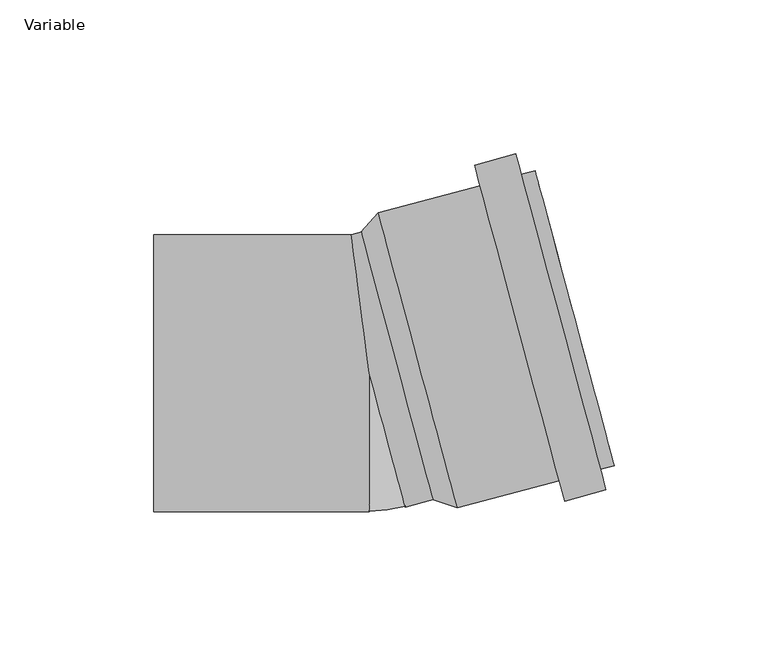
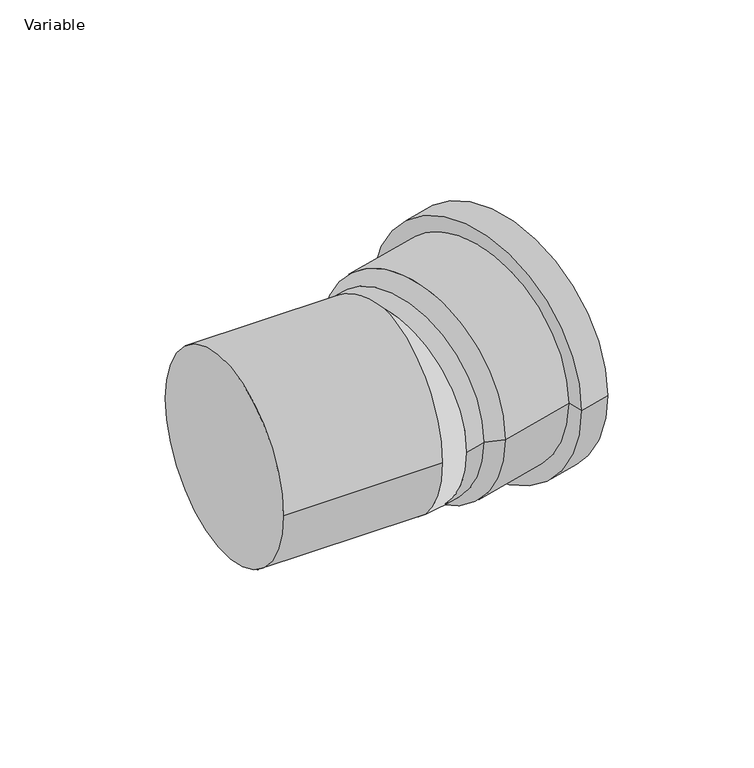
"""IFC4 building model written with IfcOpenShell, lengths in millimetres: pipe fitting geometry, AliaxisFR_Friaphon_ElbowMF_FR : Variable."""

from ifc_helpers import new_model, si_unit, point, frame, origin, place, context, project, spatial, polyline, circle_curve, ellipse_curve, trimmed, source, transform, mapped, element, save
from ifc_brep_helpers import plane_surface, cylinder_surface, revolved_surface, advanced_brep


def variable_9034dd39(model_context):
    return source(origin(), model_context, "Body", "AdvancedBrep", [
        advanced_brep(
        [(79.4863067, -30.0514069, 0.0), (53.8114574, 65.7684351, 0.0), (55.002025, 61.3251763, 0.0), (78.295739, -25.6081481, 0.0), (63.4025303, -41.5044474, 0.0), (34.1559782, 67.645171, 0.0), (47.5823472, 71.2427557, 0.0), (76.8288993, -37.9068627, 0.0), (61.6166789, -34.8395592, 0.0), (35.9418296, 60.9802828, 0.0), (28.5820156, -43.6911705, 0.0), (2.9071663, 52.1286714, 0.0), (-2.5671543, 45.8995612, 0.0), (20.7265598, -41.0337632, 0.0), (75.0430479, -31.2419745, 0.0), (49.3681986, 64.5778675, 0.0)],
        [
            (0, 1, circle_curve(frame((66.648882, 17.8585141, 0.0), z_axis=(0.9659258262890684, 0.25881904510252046, 0.0), x_axis=(-0.25881904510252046, 0.9659258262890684, 0.0)), 49.6)),
            (1, 2),
            (2, 3, circle_curve(frame((66.648882, 17.8585141, 0.0), z_axis=(-0.9659258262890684, -0.25881904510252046, 0.0), x_axis=(-0.25881904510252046, 0.9659258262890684, 0.0)), 45.0)),
            (3, 0),
            (1, 0, circle_curve(frame((66.648882, 17.8585141, 0.0), z_axis=(0.9659258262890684, 0.25881904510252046, 0.0), x_axis=(-0.25881904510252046, 0.9659258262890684, 0.0)), 49.6)),
            (3, 2, circle_curve(frame((66.648882, 17.8585141, 0.0), z_axis=(-0.9659258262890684, -0.25881904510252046, 0.0), x_axis=(-0.25881904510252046, 0.9659258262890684, 0.0)), 45.0)),
            (4, 5, circle_curve(frame((48.7792542, 13.0703618, 0.0), z_axis=(0.9659258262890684, 0.25881904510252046, 0.0), x_axis=(-0.25881904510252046, 0.9659258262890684, 0.0)), 56.5)),
            (5, 6),
            (6, 7, circle_curve(frame((62.2056232, 16.6679465, 0.0), z_axis=(-0.9659258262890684, -0.25881904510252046, 0.0), x_axis=(-0.25881904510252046, 0.9659258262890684, 0.0)), 56.5)),
            (7, 4),
            (5, 4, circle_curve(frame((48.7792542, 13.0703618, 0.0), z_axis=(0.9659258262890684, 0.25881904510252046, 0.0), x_axis=(-0.25881904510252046, 0.9659258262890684, 0.0)), 56.5)),
            (7, 6, circle_curve(frame((62.2056232, 16.6679465, 0.0), z_axis=(-0.9659258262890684, -0.25881904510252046, 0.0), x_axis=(-0.25881904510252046, 0.9659258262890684, 0.0)), 56.5)),
            (8, 9, circle_curve(frame((48.7792542, 13.0703618, 0.0), z_axis=(0.9659258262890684, 0.25881904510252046, 0.0), x_axis=(-0.25881904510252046, 0.9659258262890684, 0.0)), 49.6)),
            (9, 5),
            (4, 8),
            (9, 8, circle_curve(frame((48.7792542, 13.0703618, 0.0), z_axis=(0.9659258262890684, 0.25881904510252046, 0.0), x_axis=(-0.25881904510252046, 0.9659258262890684, 0.0)), 49.6)),
            (10, 11, circle_curve(frame((15.744591, 4.2187504, 0.0), z_axis=(0.9659258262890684, 0.25881904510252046, 0.0), x_axis=(-0.25881904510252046, 0.9659258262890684, 0.0)), 49.6)),
            (11, 9),
            (8, 10),
            (11, 10, circle_curve(frame((15.744591, 4.2187504, 0.0), z_axis=(0.9659258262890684, 0.25881904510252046, 0.0), x_axis=(-0.25881904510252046, 0.9659258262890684, 0.0)), 49.6)),
            (2, 12),
            (12, 13, circle_curve(frame((9.0797028, 2.432899, 0.0), z_axis=(-0.9659258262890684, -0.25881904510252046, 0.0), x_axis=(-0.25881904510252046, 0.9659258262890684, 0.0)), 45.0)),
            (13, 3),
            (13, 12, circle_curve(frame((9.0797028, 2.432899, 0.0), z_axis=(-0.9659258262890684, -0.25881904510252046, 0.0), x_axis=(-0.25881904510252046, 0.9659258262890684, 0.0)), 45.0)),
            (12, 11),
            (10, 13),
            (14, 15, circle_curve(frame((62.2056232, 16.6679465, 0.0), z_axis=(0.9659258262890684, 0.25881904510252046, 0.0), x_axis=(-0.25881904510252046, 0.9659258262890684, 0.0)), 49.6)),
            (15, 1),
            (0, 14),
            (15, 14, circle_curve(frame((62.2056232, 16.6679465, 0.0), z_axis=(0.9659258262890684, 0.25881904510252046, 0.0), x_axis=(-0.25881904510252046, 0.9659258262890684, 0.0)), 49.6)),
            (6, 15),
            (14, 7),
        ],
        [
            plane_surface(frame((66.648882, 17.8585141, 0.0), z_axis=(0.9659258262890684, 0.25881904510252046, 0.0), x_axis=(-0.25881904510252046, 0.9659258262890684, 0.0))),
            cylinder_surface(frame((9.0797028, 2.432899, 0.0), z_axis=(-0.9659258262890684, -0.25881904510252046, 0.0), x_axis=(-0.25881904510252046, 0.9659258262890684, 0.0)), 56.5),
            plane_surface(frame((48.7792542, 13.0703618, 0.0), z_axis=(-0.9659258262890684, -0.25881904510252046, 0.0), x_axis=(-0.25881904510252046, 0.9659258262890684, 0.0))),
            cylinder_surface(frame((9.0797028, 2.432899, 0.0), z_axis=(-0.9659258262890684, -0.25881904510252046, 0.0), x_axis=(-0.25881904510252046, 0.9659258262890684, 0.0)), 49.6),
            revolved_surface(polyline([(-2.5671542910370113, 45.899561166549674, 0.0), (55.00202500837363, 61.325176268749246, 0.0)]), (9.0797028, 2.432899, 0.0), (-0.9659258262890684, -0.25881904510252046, 0.0)),
            revolved_surface(polyline([(2.9071663, 52.1286714, 0.0), (-2.5671543, 45.8995612, 0.0)]), (9.0797028, 2.432899, 0.0), (-0.9659258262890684, -0.25881904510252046, 0.0)),
            plane_surface(frame((62.2056232, 16.6679465, 0.0), z_axis=(0.9659258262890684, 0.25881904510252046, 0.0), x_axis=(-0.25881904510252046, 0.9659258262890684, 0.0))),
        ],
        [
            (0, [[1, 2, 3, 4]]),
            (0, [[5, -4, 6, -2]]),
            (1, [[7, 8, 9, 10]]),
            (1, [[11, -10, 12, -8]]),
            (2, [[13, 14, -7, 15]]),
            (2, [[16, -15, -11, -14]]),
            (3, [[17, 18, -13, 19]]),
            (3, [[20, -19, -16, -18]]),
            (4, [[-3, 21, 22, 23]]),
            (4, [[-6, -23, 24, -21]]),
            (5, [[-22, 25, -17, 26]]),
            (5, [[-24, -26, -20, -25]]),
            (3, [[27, 28, -1, 29]]),
            (3, [[30, -29, -5, -28]]),
            (6, [[-9, 31, -27, 32]]),
            (6, [[-12, -32, -30, -31]]),
        ],
    ),
        advanced_brep(
        [(1.8761045, 47.0901288, 0.0), (13.5229616, 3.6234666, 45.0), (25.1698186, -39.8431956, 0.0), (13.5229616, 3.6234666, -45.0), (11.646857, -43.4666622, 0.0), (-5.9243624, 45.0, 0.0), (0.0, 0.0, 45.0), (0.0, 0.0, -45.0), (-70.0, -45.0, 0.0), (-70.0, 45.0, 0.0), (0.0, -45.0, 0.0)],
        [
            (0, 1, circle_curve(frame((13.5229616, 3.6234666, 0.0), z_axis=(0.9659258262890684, 0.2588190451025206, 0.0), x_axis=(-0.2588190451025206, 0.9659258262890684, 0.0)), 45.0)),
            (1, 2, circle_curve(frame((13.5229616, 3.6234666, 0.0), z_axis=(0.9659258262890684, 0.2588190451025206, 0.0), x_axis=(-0.2588190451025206, 0.9659258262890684, 0.0)), 45.0)),
            (2, 3, circle_curve(frame((13.5229616, 3.6234666, 0.0), z_axis=(0.9659258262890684, 0.2588190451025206, 0.0), x_axis=(-0.2588190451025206, 0.9659258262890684, 0.0)), 45.0)),
            (3, 0, circle_curve(frame((13.5229616, 3.6234666, 0.0), z_axis=(0.9659258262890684, 0.2588190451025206, 0.0), x_axis=(-0.2588190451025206, 0.9659258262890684, 0.0)), 45.0)),
            (4, 2),
            (0, 5),
            (5, 6, ellipse_curve(frame((0.0, 0.0, 0.0), z_axis=(0.9914448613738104, 0.1305261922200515, 0.0), x_axis=(0.13052619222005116, -0.9914448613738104, 0.0)), 45.3883032, 45.0)),
            (6, 4, circle_curve(frame((0.0, 0.0, 0.0), z_axis=(0.9659258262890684, 0.2588190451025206, 0.0), x_axis=(-0.2588190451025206, 0.9659258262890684, 0.0)), 45.0)),
            (4, 7, circle_curve(frame((0.0, 0.0, 0.0), z_axis=(0.9659258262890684, 0.2588190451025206, 0.0), x_axis=(-0.2588190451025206, 0.9659258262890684, 0.0)), 45.0)),
            (7, 5, ellipse_curve(frame((0.0, 0.0, 0.0), z_axis=(0.9914448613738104, 0.1305261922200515, 0.0), x_axis=(0.13052619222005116, -0.9914448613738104, 0.0)), 45.3883032, 45.0)),
            (8, 9, circle_curve(frame((-70.0, 0.0, 0.0), z_axis=(-1.0, 0.0, 0.0), x_axis=(0.0, 1.0, 0.0)), 45.0)),
            (9, 8, circle_curve(frame((-70.0, 0.0, 0.0), z_axis=(-1.0, 0.0, 0.0), x_axis=(0.0, 1.0, 0.0)), 45.0)),
            (8, 10),
            (10, 6, circle_curve(frame((0.0, 0.0, 0.0), z_axis=(-1.0, 0.0, 0.0), x_axis=(0.0, 1.0, 0.0)), 45.0)),
            (5, 9),
            (7, 10, circle_curve(frame((0.0, 0.0, 0.0), z_axis=(-1.0, 0.0, 0.0), x_axis=(0.0, 1.0, 0.0)), 45.0)),
        ],
        [
            plane_surface(frame((13.5229616, 3.6234666, 0.0), z_axis=(0.9659258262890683, 0.2588190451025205, 0.0), x_axis=(0.0, 0.0, 1.0))),
            cylinder_surface(frame((0.0, 0.0, 0.0), z_axis=(-0.9659258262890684, -0.2588190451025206, 0.0), x_axis=(-0.2588190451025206, 0.9659258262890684, 0.0)), 45.0),
            plane_surface(frame((-70.0, 0.0, 0.0), z_axis=(-1.0, 0.0, 0.0), x_axis=(0.0, 0.0, 1.0))),
            cylinder_surface(frame((-70.0, 0.0, 0.0), z_axis=(-1.0, 0.0, 0.0), x_axis=(0.0, 1.0, 0.0)), 45.0),
            revolved_surface(trimmed(ellipse_curve(frame((0.0, 0.0, 0.0), z_axis=(0.9659258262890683, 0.2588190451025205, 0.0), x_axis=(-0.2588190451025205, 0.9659258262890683, 0.0)), 45.0, 45.0), [point((0.0, 0.0, 45.0))], [point((0.0, 0.0, -45.0))], True, "CARTESIAN"), (0.0, 0.0, 45.0), (0.0, 0.0, -1.0)),
        ],
        [
            (0, [[1, 2, 3, 4]]),
            (1, [[5, -2, -1, 6, 7, 8]]),
            (1, [[-5, 9, 10, -6, -4, -3]]),
            (2, [[11, 12]]),
            (3, [[-11, 13, 14, -7, 15]]),
            (3, [[-12, -15, -10, 16, -13]]),
            (4, [[-14, -16, -9, -8]]),
        ],
    ),
    ])


if __name__ == "__main__":
    model = new_model("IFC4")
    model_context = context("Model", 3, world=origin())
    ifc_project = project(units=[si_unit("LENGTHUNIT", "METRE", prefix="MILLI")], contexts=[model_context])
    site = spatial("IfcSite", under=ifc_project)
    building = spatial("IfcBuilding", under=site)
    placement = place(None, origin())
    variable_shape = variable_9034dd39(model_context)
    element("IfcPipeFitting", 1, ObjectType="AliaxisFR_Friaphon_ElbowMF_FR : Variable", at=placement, inside=building, context=model_context, shape_type="MappedRepresentation", body=[
        mapped(variable_shape, transform((0.0, 0.0, 0.0), x_axis=(1.0, 0.0, 0.0), y_axis=(0.0, 1.0, 0.0), z_axis=(0.0, 0.0, 1.0))),
    ])
    save(model, "model.ifc")
